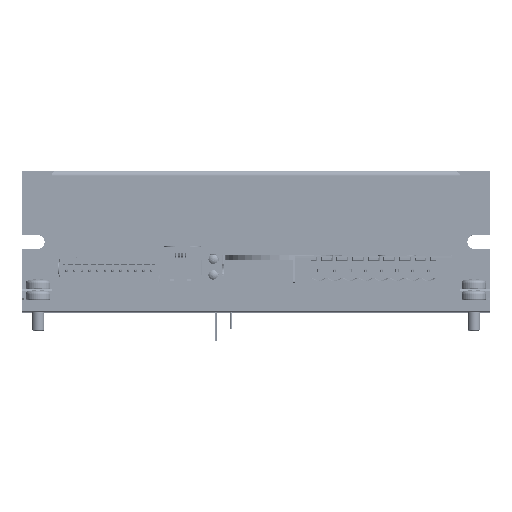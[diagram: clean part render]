
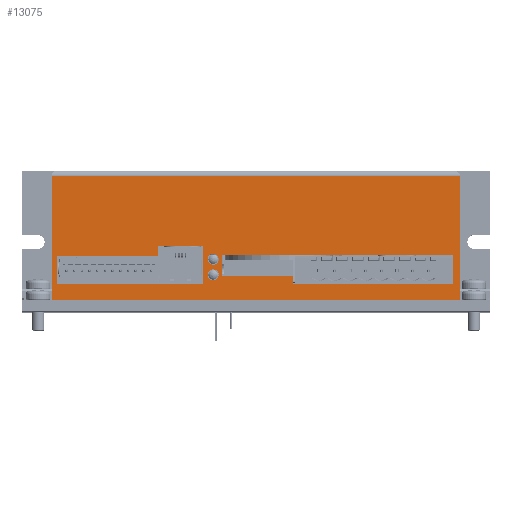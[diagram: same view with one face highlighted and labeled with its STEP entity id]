
A CAD part, top view. The second image highlights one B-rep face of the part: STEP entity #13075.
In plain terms, the highlighted planar face has unit normal (0, 0, 1).
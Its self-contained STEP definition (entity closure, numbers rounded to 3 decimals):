
#7630=DIRECTION('',(1.,0.,0.));
#7631=VECTOR('',#7630,132.8);
#7632=CARTESIAN_POINT('',(-66.4,-1.7,62.5));
#7633=LINE('',#7632,#7631);
#7668=DIRECTION('',(0.,-1.,0.));
#7669=VECTOR('',#7668,40.3);
#7670=CARTESIAN_POINT('',(66.4,-1.7,62.5));
#7671=LINE('',#7670,#7669);
#7675=DIRECTION('',(-1.,0.,0.));
#7676=VECTOR('',#7675,132.8);
#7677=CARTESIAN_POINT('',(66.4,-42.,62.5));
#7678=LINE('',#7677,#7676);
#7682=DIRECTION('',(0.,1.,0.));
#7683=VECTOR('',#7682,40.3);
#7684=CARTESIAN_POINT('',(-66.4,-42.,62.5));
#7685=LINE('',#7684,#7683);
#7689=DIRECTION('',(-1.,0.,0.));
#7690=VECTOR('',#7689,23.3);
#7691=CARTESIAN_POINT('',(12.1,-34.3,62.5));
#7692=LINE('',#7691,#7690);
#7696=DIRECTION('',(0.,1.,0.));
#7697=VECTOR('',#7696,2.7);
#7698=CARTESIAN_POINT('',(12.1,-37.,62.5));
#7699=LINE('',#7698,#7697);
#7703=DIRECTION('',(-1.,0.,0.));
#7704=VECTOR('',#7703,52.);
#7705=CARTESIAN_POINT('',(64.1,-37.,62.5));
#7706=LINE('',#7705,#7704);
#7710=DIRECTION('',(0.,-1.,0.));
#7711=VECTOR('',#7710,9.7);
#7712=CARTESIAN_POINT('',(64.1,-27.3,62.5));
#7713=LINE('',#7712,#7711);
#7717=DIRECTION('',(0.,1.,0.));
#7718=VECTOR('',#7717,7.);
#7719=CARTESIAN_POINT('',(-11.2,-34.3,62.5));
#7720=LINE('',#7719,#7718);
#7724=CARTESIAN_POINT('',(-13.9,-33.9,62.5));
#7725=DIRECTION('',(0.,0.,1.));
#7726=DIRECTION('',(-1.,0.,0.));
#7727=AXIS2_PLACEMENT_3D('',#7724,#7725,#7726);
#7732=CARTESIAN_POINT('',(-13.9,-33.9,62.5));
#7733=DIRECTION('',(0.,0.,1.));
#7734=DIRECTION('',(1.,0.,0.));
#7735=AXIS2_PLACEMENT_3D('',#7732,#7733,#7734);
#7740=CARTESIAN_POINT('',(-13.9,-28.8,62.5));
#7741=DIRECTION('',(0.,0.,1.));
#7742=DIRECTION('',(-1.,0.,0.));
#7743=AXIS2_PLACEMENT_3D('',#7740,#7741,#7742);
#7748=CARTESIAN_POINT('',(-13.9,-28.8,62.5));
#7749=DIRECTION('',(0.,0.,1.));
#7750=DIRECTION('',(1.,0.,0.));
#7751=AXIS2_PLACEMENT_3D('',#7748,#7749,#7750);
#7756=DIRECTION('',(0.,-1.,0.));
#7757=VECTOR('',#7756,12.6);
#7758=CARTESIAN_POINT('',(-17.3,-24.4,62.5));
#7759=LINE('',#7758,#7757);
#7763=DIRECTION('',(1.,0.,0.));
#7764=VECTOR('',#7763,14.5);
#7765=CARTESIAN_POINT('',(-31.8,-24.4,62.5));
#7766=LINE('',#7765,#7764);
#7770=DIRECTION('',(0.,1.,0.));
#7771=VECTOR('',#7770,3.4);
#7772=CARTESIAN_POINT('',(-31.8,-27.8,62.5));
#7773=LINE('',#7772,#7771);
#7777=DIRECTION('',(1.,0.,0.));
#7778=VECTOR('',#7777,32.7);
#7779=CARTESIAN_POINT('',(-64.5,-27.8,62.5));
#7780=LINE('',#7779,#7778);
#7784=DIRECTION('',(0.,1.,0.));
#7785=VECTOR('',#7784,9.2);
#7786=CARTESIAN_POINT('',(-64.5,-37.,62.5));
#7787=LINE('',#7786,#7785);
#8672=DIRECTION('',(1.,0.,0.));
#8673=VECTOR('',#8672,75.3);
#8674=CARTESIAN_POINT('',(-11.2,-27.3,62.5));
#8675=LINE('',#8674,#8673);
#8735=DIRECTION('',(-1.,0.,0.));
#8736=VECTOR('',#8735,47.2);
#8737=CARTESIAN_POINT('',(-17.3,-37.,62.5));
#8738=LINE('',#8737,#8736);
#10874=CARTESIAN_POINT('',(66.4,-1.7,62.5));
#10875=CARTESIAN_POINT('',(66.4,-42.,62.5));
#10876=VERTEX_POINT('',#10874);
#10877=VERTEX_POINT('',#10875);
#10878=CARTESIAN_POINT('',(-66.4,-42.,62.5));
#10879=VERTEX_POINT('',#10878);
#10880=CARTESIAN_POINT('',(-66.4,-1.7,62.5));
#10881=VERTEX_POINT('',#10880);
#11218=CARTESIAN_POINT('',(64.1,-27.3,62.5));
#11219=CARTESIAN_POINT('',(64.1,-37.,62.5));
#11220=VERTEX_POINT('',#11218);
#11221=VERTEX_POINT('',#11219);
#11222=CARTESIAN_POINT('',(12.1,-37.,62.5));
#11223=VERTEX_POINT('',#11222);
#11230=CARTESIAN_POINT('',(12.1,-34.3,62.5));
#11231=CARTESIAN_POINT('',(-11.2,-34.3,62.5));
#11232=VERTEX_POINT('',#11230);
#11233=VERTEX_POINT('',#11231);
#11234=CARTESIAN_POINT('',(-11.2,-27.3,62.5));
#11235=VERTEX_POINT('',#11234);
#11242=CARTESIAN_POINT('',(-15.7,-33.9,62.5));
#11243=CARTESIAN_POINT('',(-12.1,-33.9,62.5));
#11244=VERTEX_POINT('',#11242);
#11245=VERTEX_POINT('',#11243);
#11246=CARTESIAN_POINT('',(-15.7,-28.8,62.5));
#11247=CARTESIAN_POINT('',(-12.1,-28.8,62.5));
#11248=VERTEX_POINT('',#11246);
#11249=VERTEX_POINT('',#11247);
#11258=CARTESIAN_POINT('',(-31.8,-24.4,62.5));
#11259=CARTESIAN_POINT('',(-17.3,-24.4,62.5));
#11260=VERTEX_POINT('',#11258);
#11261=VERTEX_POINT('',#11259);
#11262=CARTESIAN_POINT('',(-17.3,-37.,62.5));
#11263=VERTEX_POINT('',#11262);
#11270=CARTESIAN_POINT('',(-64.5,-37.,62.5));
#11271=CARTESIAN_POINT('',(-64.5,-27.8,62.5));
#11272=VERTEX_POINT('',#11270);
#11273=VERTEX_POINT('',#11271);
#11274=CARTESIAN_POINT('',(-31.8,-27.8,62.5));
#11275=VERTEX_POINT('',#11274);
#13021=CARTESIAN_POINT('',(66.4,0.,62.5));
#13022=DIRECTION('',(0.,0.,-1.));
#13023=DIRECTION('',(1.,0.,0.));
#13024=AXIS2_PLACEMENT_3D('',#13021,#13022,#13023);
#13025=PLANE('',#13024);
#13027=ORIENTED_EDGE('',*,*,#13026,.T.);
#13029=ORIENTED_EDGE('',*,*,#13028,.T.);
#13031=ORIENTED_EDGE('',*,*,#13030,.T.);
#13032=ORIENTED_EDGE('',*,*,#13012,.T.);
#13033=EDGE_LOOP('',(#13027,#13029,#13031,#13032));
#13034=FACE_OUTER_BOUND('',#13033,.F.);
#13036=ORIENTED_EDGE('',*,*,#13035,.F.);
#13038=ORIENTED_EDGE('',*,*,#13037,.F.);
#13040=ORIENTED_EDGE('',*,*,#13039,.F.);
#13042=ORIENTED_EDGE('',*,*,#13041,.F.);
#13044=ORIENTED_EDGE('',*,*,#13043,.F.);
#13046=ORIENTED_EDGE('',*,*,#13045,.F.);
#13047=EDGE_LOOP('',(#13036,#13038,#13040,#13042,#13044,#13046));
#13048=FACE_BOUND('',#13047,.F.);
#13050=ORIENTED_EDGE('',*,*,#13049,.T.);
#13052=ORIENTED_EDGE('',*,*,#13051,.T.);
#13053=EDGE_LOOP('',(#13050,#13052));
#13054=FACE_BOUND('',#13053,.F.);
#13056=ORIENTED_EDGE('',*,*,#13055,.T.);
#13058=ORIENTED_EDGE('',*,*,#13057,.T.);
#13059=EDGE_LOOP('',(#13056,#13058));
#13060=FACE_BOUND('',#13059,.F.);
#13062=ORIENTED_EDGE('',*,*,#13061,.F.);
#13064=ORIENTED_EDGE('',*,*,#13063,.F.);
#13066=ORIENTED_EDGE('',*,*,#13065,.F.);
#13068=ORIENTED_EDGE('',*,*,#13067,.F.);
#13070=ORIENTED_EDGE('',*,*,#13069,.F.);
#13072=ORIENTED_EDGE('',*,*,#13071,.F.);
#13073=EDGE_LOOP('',(#13062,#13064,#13066,#13068,#13070,#13072));
#13074=FACE_BOUND('',#13073,.F.);
#7728=CIRCLE('',#7727,1.8);
#7736=CIRCLE('',#7735,1.8);
#7744=CIRCLE('',#7743,1.8);
#7752=CIRCLE('',#7751,1.8);
#13012=EDGE_CURVE('',#10881,#10876,#7633,.T.);
#13026=EDGE_CURVE('',#10876,#10877,#7671,.T.);
#13028=EDGE_CURVE('',#10877,#10879,#7678,.T.);
#13030=EDGE_CURVE('',#10879,#10881,#7685,.T.);
#13035=EDGE_CURVE('',#11232,#11233,#7692,.T.);
#13037=EDGE_CURVE('',#11223,#11232,#7699,.T.);
#13039=EDGE_CURVE('',#11221,#11223,#7706,.T.);
#13041=EDGE_CURVE('',#11220,#11221,#7713,.T.);
#13043=EDGE_CURVE('',#11235,#11220,#8675,.T.);
#13045=EDGE_CURVE('',#11233,#11235,#7720,.T.);
#13049=EDGE_CURVE('',#11244,#11245,#7728,.T.);
#13051=EDGE_CURVE('',#11245,#11244,#7736,.T.);
#13055=EDGE_CURVE('',#11248,#11249,#7744,.T.);
#13057=EDGE_CURVE('',#11249,#11248,#7752,.T.);
#13061=EDGE_CURVE('',#11263,#11272,#8738,.T.);
#13063=EDGE_CURVE('',#11261,#11263,#7759,.T.);
#13065=EDGE_CURVE('',#11260,#11261,#7766,.T.);
#13067=EDGE_CURVE('',#11275,#11260,#7773,.T.);
#13069=EDGE_CURVE('',#11273,#11275,#7780,.T.);
#13071=EDGE_CURVE('',#11272,#11273,#7787,.T.);
#13075=ADVANCED_FACE('',(#13034,#13048,#13054,#13060,#13074),#13025,.F.);
